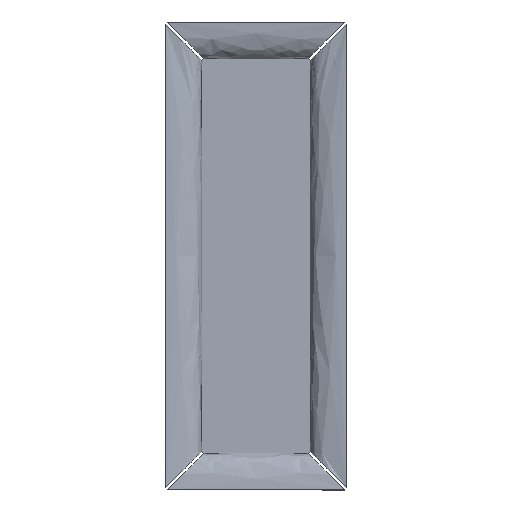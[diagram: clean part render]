
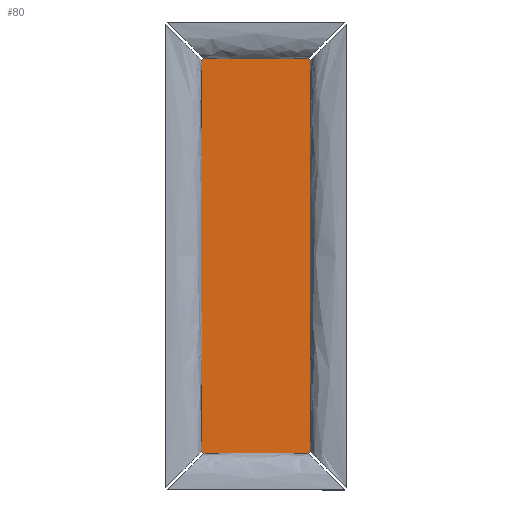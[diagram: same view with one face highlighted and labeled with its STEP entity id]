
A CAD part, top view. The second image highlights one B-rep face of the part: STEP entity #80.
In plain terms, the highlighted planar face has unit normal (0, 0, 1).
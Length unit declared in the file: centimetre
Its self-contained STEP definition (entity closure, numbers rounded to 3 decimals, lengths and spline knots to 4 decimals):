
#80=ADVANCED_FACE($,(#144),#808,.T.);
#144=FACE_OUTER_BOUND($,#208,.T.);
#208=EDGE_LOOP($,(#476,#477,#478,#479,#480,#481,#482,#483));
#476=ORIENTED_EDGE($,*,*,#638,.T.);
#477=ORIENTED_EDGE($,*,*,#652,.T.);
#478=ORIENTED_EDGE($,*,*,#651,.T.);
#479=ORIENTED_EDGE($,*,*,#650,.T.);
#480=ORIENTED_EDGE($,*,*,#649,.T.);
#481=ORIENTED_EDGE($,*,*,#648,.T.);
#482=ORIENTED_EDGE($,*,*,#647,.T.);
#483=ORIENTED_EDGE($,*,*,#646,.T.);
#638=EDGE_CURVE($,#737,#751,#942,.T.);
#646=EDGE_CURVE($,#745,#737,#950,.T.);
#647=EDGE_CURVE($,#746,#745,#951,.T.);
#648=EDGE_CURVE($,#747,#746,#952,.T.);
#649=EDGE_CURVE($,#748,#747,#953,.T.);
#650=EDGE_CURVE($,#749,#748,#954,.T.);
#651=EDGE_CURVE($,#750,#749,#955,.T.);
#652=EDGE_CURVE($,#751,#750,#956,.T.);
#737=VERTEX_POINT($,#3445);
#745=VERTEX_POINT($,#3453);
#746=VERTEX_POINT($,#3454);
#747=VERTEX_POINT($,#3455);
#748=VERTEX_POINT($,#3456);
#749=VERTEX_POINT($,#3457);
#750=VERTEX_POINT($,#3458);
#751=VERTEX_POINT($,#3459);
#808=PLANE($,#1066);
#942=B_SPLINE_CURVE_WITH_KNOTS($,1,(#3390,#3391),.UNSPECIFIED.,.F.,.F.,(2,
2),(44.5029,45.7029),.UNSPECIFIED.);
#950=B_SPLINE_CURVE_WITH_KNOTS($,1,(#3406,#3407),.UNSPECIFIED.,.F.,.F.,(2,
2),(417.2118,460.5147),.UNSPECIFIED.);
#951=B_SPLINE_CURVE_WITH_KNOTS($,1,(#3408,#3409),.UNSPECIFIED.,.F.,.F.,(2,
2),(416.0118,417.2118),.UNSPECIFIED.);
#952=B_SPLINE_CURVE_WITH_KNOTS($,1,(#3410,#3411),.UNSPECIFIED.,.F.,.F.,(2,
2),(253.7088,416.0118),.UNSPECIFIED.);
#953=B_SPLINE_CURVE_WITH_KNOTS($,1,(#3412,#3413),.UNSPECIFIED.,.F.,.F.,(2,
2),(252.5088,253.7088),.UNSPECIFIED.);
#954=B_SPLINE_CURVE_WITH_KNOTS($,1,(#3414,#3415),.UNSPECIFIED.,.F.,.F.,(2,
2),(209.2059,252.5088),.UNSPECIFIED.);
#955=B_SPLINE_CURVE_WITH_KNOTS($,1,(#3416,#3417),.UNSPECIFIED.,.F.,.F.,(2,
2),(208.0059,209.2059),.UNSPECIFIED.);
#956=B_SPLINE_CURVE_WITH_KNOTS($,1,(#3418,#3419),.UNSPECIFIED.,.F.,.F.,(2,
2),(45.7029,208.0059),.UNSPECIFIED.);
#1066=AXIS2_PLACEMENT_3D($,#3436,#1091,$);
#1091=DIRECTION($,(0.,0.,1.));
#3390=CARTESIAN_POINT($,(0.8485,164.,3.6));
#3391=CARTESIAN_POINT($,(0.,163.1515,3.6));
#3406=CARTESIAN_POINT($,(44.1515,164.,3.6));
#3407=CARTESIAN_POINT($,(0.8485,164.,3.6));
#3408=CARTESIAN_POINT($,(45.,163.1515,3.6));
#3409=CARTESIAN_POINT($,(44.1515,164.,3.6));
#3410=CARTESIAN_POINT($,(45.,0.8485,3.6));
#3411=CARTESIAN_POINT($,(45.,163.1515,3.6));
#3412=CARTESIAN_POINT($,(44.1515,0.,3.6));
#3413=CARTESIAN_POINT($,(45.,0.8485,3.6));
#3414=CARTESIAN_POINT($,(0.8485,0.,3.6));
#3415=CARTESIAN_POINT($,(44.1515,0.,3.6));
#3416=CARTESIAN_POINT($,(0.,0.8485,3.6));
#3417=CARTESIAN_POINT($,(0.8485,0.,3.6));
#3418=CARTESIAN_POINT($,(0.,163.1515,3.6));
#3419=CARTESIAN_POINT($,(0.,0.8485,3.6));
#3436=CARTESIAN_POINT($,(0.,0.,3.6));
#3445=CARTESIAN_POINT($,(0.8485,164.,3.6));
#3453=CARTESIAN_POINT($,(44.1515,164.,3.6));
#3454=CARTESIAN_POINT($,(45.,163.1515,3.6));
#3455=CARTESIAN_POINT($,(45.,0.8485,3.6));
#3456=CARTESIAN_POINT($,(44.1515,0.,3.6));
#3457=CARTESIAN_POINT($,(0.8485,0.,3.6));
#3458=CARTESIAN_POINT($,(0.,0.8485,3.6));
#3459=CARTESIAN_POINT($,(0.,163.1515,3.6));
